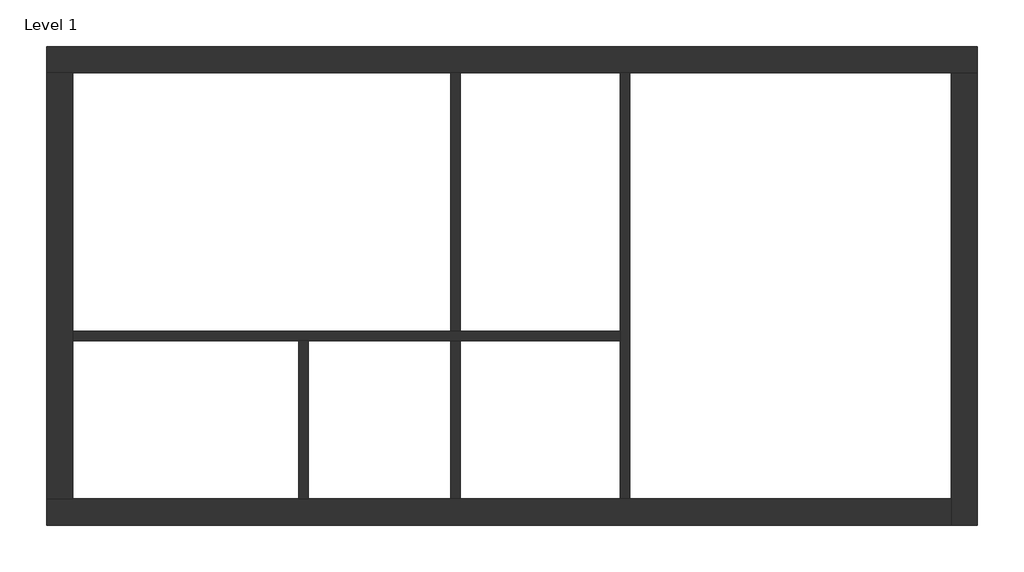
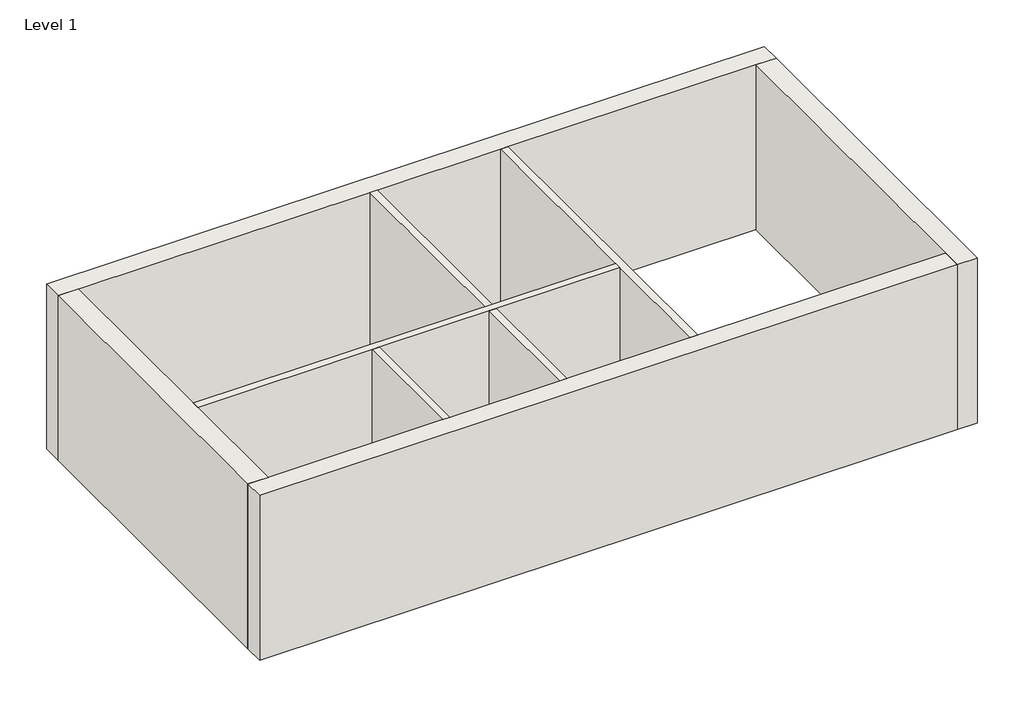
# One storey: 8 walls.
"""IFC4 building model written with IfcOpenShell, lengths in millimetres."""

from ifc_helpers import new_model, si_unit, origin, origin_with_axes, place, context, project, spatial, polyline, outline, extrude, faceted_brep, element, save

model = new_model("IFC4")

# Units and contexts
model_context = context("Model", 3, world=origin())
ifc_project = project(units=[si_unit("LENGTHUNIT", "METRE", prefix="MILLI")], contexts=[model_context])

# Site, building, storey
site = spatial("IfcSite", under=ifc_project)
building = spatial("IfcBuilding", under=site)
storey = spatial("IfcBuildingStorey", under=building, Name="Level 1", Elevation=0.0)

# Walls
placement = place(None, origin())
element("IfcWall", 1, ObjectType="Exterior - Brick on Mtl. Stud", at=placement, inside=storey, context=model_context, shape_type="Brep", body=[
    faceted_brep([(-11569.6714563, 10270.0191867, 0.0), (-11217.2464563, 10270.0191867, 0.0), (-6122.9589563, 10270.0191867, 0.0), (-5995.9589563, 10270.0191867, 0.0), (-3836.9589563, 10270.0191867, 0.0), (-3709.9589563, 10270.0191867, 0.0), (622.3285437, 10270.0191867, 0.0), (974.7535437, 10270.0191867, 0.0), (974.7535437, 10270.0191867, 3048.0), (622.3285437, 10270.0191867, 3048.0), (-3709.9589563, 10270.0191867, 3048.0), (-3836.9589563, 10270.0191867, 3048.0), (-5995.9589563, 10270.0191867, 3048.0), (-6122.9589563, 10270.0191867, 3048.0), (-11217.2464563, 10270.0191867, 3048.0), (-11569.6714563, 10270.0191867, 3048.0), (-11569.6714563, 10622.4441867, 0.0), (-11569.6714563, 10622.4441867, 3048.0), (974.7535437, 10622.4441867, 3048.0), (974.7535437, 10622.4441867, 0.0)], [[[0, 1, 2, 3, 4, 5, 6, 7, 8, 9, 10, 11, 12, 13, 14, 15]], [[16, 17, 18, 19]], [[7, 6, 5, 4, 3, 2, 1, 0, 16, 19]], [[15, 14, 13, 12, 11, 10, 9, 8, 18, 17]], [[8, 7, 19, 18]], [[0, 15, 17, 16]]]),
])
element("IfcWall", 2, ObjectType="Exterior - Brick on Mtl. Stud", at=placement, inside=storey, context=model_context, shape_type="Brep", body=[
    faceted_brep([(622.3285437, 10270.0191867, 0.0), (622.3285437, 4526.4441867, 0.0), (622.3285437, 4174.0191867, 0.0), (622.3285437, 4174.0191867, 3048.0), (622.3285437, 4526.4441867, 3048.0), (622.3285437, 10270.0191867, 3048.0), (974.7535437, 10270.0191867, 0.0), (974.7535437, 10270.0191867, 3048.0), (974.7535437, 4174.0191867, 3048.0), (974.7535437, 4174.0191867, 0.0)], [[[0, 1, 2, 3, 4, 5]], [[6, 7, 8, 9]], [[2, 1, 0, 6, 9]], [[5, 4, 3, 8, 7]], [[3, 2, 9, 8]], [[0, 5, 7, 6]]]),
])
element("IfcWall", 3, ObjectType="Exterior - Brick on Mtl. Stud", at=placement, inside=storey, context=model_context, shape_type="Brep", body=[
    faceted_brep([(622.3285437, 4526.4441867, 0.0), (-3709.9589563, 4526.4441867, 0.0), (-3836.9589563, 4526.4441867, 0.0), (-5995.9589563, 4526.4441867, 0.0), (-6122.9589563, 4526.4441867, 0.0), (-8042.2464563, 4526.4441867, 0.0), (-8169.2464563, 4526.4441867, 0.0), (-11217.2464563, 4526.4441867, 0.0), (-11569.6714563, 4526.4441867, 0.0), (-11569.6714563, 4526.4441867, 3048.0), (-11217.2464563, 4526.4441867, 3048.0), (-8169.2464563, 4526.4441867, 3048.0), (-8042.2464563, 4526.4441867, 3048.0), (-6122.9589563, 4526.4441867, 3048.0), (-5995.9589563, 4526.4441867, 3048.0), (-3836.9589563, 4526.4441867, 3048.0), (-3709.9589563, 4526.4441867, 3048.0), (622.3285437, 4526.4441867, 3048.0), (622.3285437, 4174.0191867, 0.0), (622.3285437, 4174.0191867, 3048.0), (-11569.6714563, 4174.0191867, 3048.0), (-11569.6714563, 4174.0191867, 0.0)], [[[0, 1, 2, 3, 4, 5, 6, 7, 8, 9, 10, 11, 12, 13, 14, 15, 16, 17]], [[18, 19, 20, 21]], [[8, 7, 6, 5, 4, 3, 2, 1, 0, 18, 21]], [[17, 16, 15, 14, 13, 12, 11, 10, 9, 20, 19]], [[9, 8, 21, 20]], [[0, 17, 19, 18]]]),
])
element("IfcWall", 4, ObjectType="Exterior - Brick on Mtl. Stud", at=placement, inside=storey, context=model_context, shape_type="Brep", body=[
    faceted_brep([(-11217.2464563, 4526.4441867, 0.0), (-11217.2464563, 6660.0441867, 0.0), (-11217.2464563, 6787.0441867, 0.0), (-11217.2464563, 10270.0191867, 0.0), (-11217.2464563, 10270.0191867, 3048.0), (-11217.2464563, 6787.0441867, 3048.0), (-11217.2464563, 6660.0441867, 3048.0), (-11217.2464563, 4526.4441867, 3048.0), (-11569.6714563, 4526.4441867, 0.0), (-11569.6714563, 4526.4441867, 3048.0), (-11569.6714563, 10270.0191867, 3048.0), (-11569.6714563, 10270.0191867, 0.0)], [[[0, 1, 2, 3, 4, 5, 6, 7]], [[8, 9, 10, 11]], [[3, 2, 1, 0, 8, 11]], [[7, 6, 5, 4, 10, 9]], [[0, 7, 9, 8]], [[4, 3, 11, 10]]]),
])
element("IfcWall", 5, ObjectType="Interior - 5\" Partition (2-hr)", at=placement, inside=storey, context=model_context, shape_type="Brep", body=[
    faceted_brep([(-3836.9589563, 10270.0191867, 0.0), (-3836.9589563, 6787.0441867, 0.0), (-3836.9589563, 6660.0441867, 0.0), (-3836.9589563, 4526.4441867, 0.0), (-3836.9589563, 4526.4441867, 3048.0), (-3836.9589563, 6660.0441867, 3048.0), (-3836.9589563, 6787.0441867, 3048.0), (-3836.9589563, 10270.0191867, 3048.0), (-3709.9589563, 10270.0191867, 0.0), (-3709.9589563, 10270.0191867, 3048.0), (-3709.9589563, 4526.4441867, 3048.0), (-3709.9589563, 4526.4441867, 0.0)], [[[0, 1, 2, 3, 4, 5, 6, 7]], [[8, 9, 10, 11]], [[3, 2, 1, 0, 8, 11]], [[7, 6, 5, 4, 10, 9]], [[0, 7, 9, 8]], [[4, 3, 11, 10]]]),
])
element("IfcWall", 6, ObjectType="Interior - 5\" Partition (2-hr)", at=placement, inside=storey, context=model_context, shape_type="SweptSolid", body=[
    extrude(outline(polyline([(-6122.9589563, 4526.4441867), (-6122.9589563, 10270.0191867), (-5995.9589563, 10270.0191867), (-5995.9589563, 4526.4441867), (-6122.9589563, 4526.4441867)])), origin_with_axes(), (0.0, 0.0, 1.0), 3048.0),
])
element("IfcWall", 7, ObjectType="Interior - 5\" Partition (2-hr)", at=placement, inside=storey, context=model_context, shape_type="Brep", body=[
    faceted_brep([(-11217.2464563, 6660.0441867, 0.0), (-8169.2464563, 6660.0441867, 0.0), (-8042.2464563, 6660.0441867, 0.0), (-3836.9589563, 6660.0441867, 0.0), (-3836.9589563, 6660.0441867, 3048.0), (-8042.2464563, 6660.0441867, 3048.0), (-8169.2464563, 6660.0441867, 3048.0), (-11217.2464563, 6660.0441867, 3048.0), (-11217.2464563, 6787.0441867, 0.0), (-11217.2464563, 6787.0441867, 3048.0), (-3836.9589563, 6787.0441867, 3048.0), (-3836.9589563, 6787.0441867, 0.0)], [[[0, 1, 2, 3, 4, 5, 6, 7]], [[8, 9, 10, 11]], [[3, 2, 1, 0, 8, 11]], [[7, 6, 5, 4, 10, 9]], [[0, 7, 9, 8]], [[4, 3, 11, 10]]]),
])
element("IfcWall", 8, ObjectType="Interior - 5\" Partition (2-hr)", at=placement, inside=storey, context=model_context, shape_type="SweptSolid", body=[
    extrude(outline(polyline([(-8042.2464563, 6660.0441867), (-8042.2464563, 4526.4441867), (-8169.2464563, 4526.4441867), (-8169.2464563, 6660.0441867), (-8042.2464563, 6660.0441867)])), origin_with_axes(), (0.0, 0.0, 1.0), 3048.0),
])

save(model, "model.ifc")
